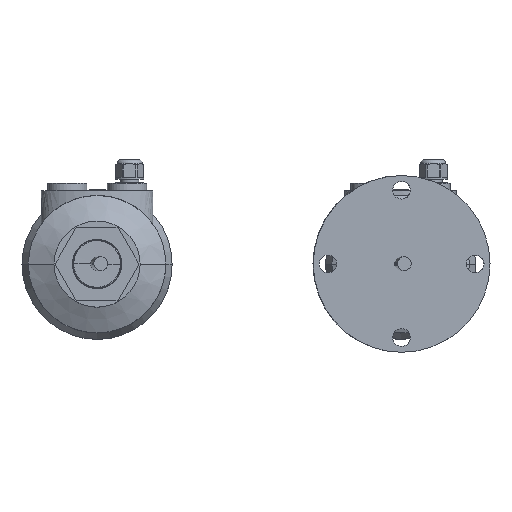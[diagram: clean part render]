
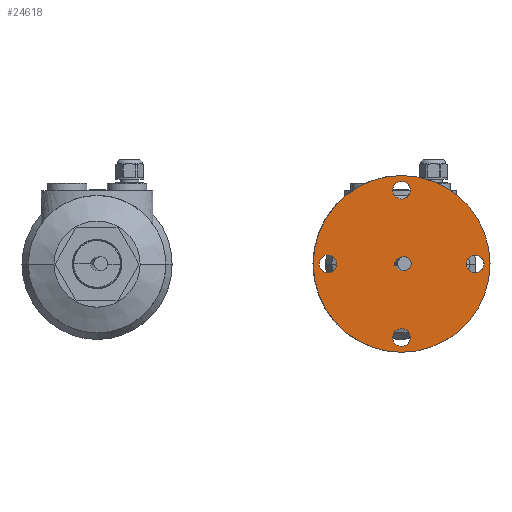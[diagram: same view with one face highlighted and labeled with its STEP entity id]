
A CAD part, top view. The second image highlights one B-rep face of the part: STEP entity #24618.
In plain terms, the highlighted planar face has unit normal (0.013, 0, 1) as drawn and (0, 0, 1) by its records, which use the part's own axes.
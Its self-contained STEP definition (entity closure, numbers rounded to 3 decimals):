
#24399=CARTESIAN_POINT('',(0.,0.,16.));
#24400=DIRECTION('',(0.,0.,1.));
#24401=DIRECTION('',(1.,0.,0.));
#24402=AXIS2_PLACEMENT_3D('',#24399,#24400,#24401);
#24404=CARTESIAN_POINT('',(0.,0.,16.));
#24405=DIRECTION('',(0.,0.,1.));
#24406=DIRECTION('',(-1.,0.,0.));
#24407=AXIS2_PLACEMENT_3D('',#24404,#24405,#24406);
#24409=CARTESIAN_POINT('',(0.,50.,16.));
#24410=DIRECTION('',(0.,0.,1.));
#24411=DIRECTION('',(1.,0.,0.));
#24412=AXIS2_PLACEMENT_3D('',#24409,#24410,#24411);
#24414=CARTESIAN_POINT('',(0.,50.,16.));
#24415=DIRECTION('',(0.,0.,1.));
#24416=DIRECTION('',(-1.,0.,0.));
#24417=AXIS2_PLACEMENT_3D('',#24414,#24415,#24416);
#24419=CARTESIAN_POINT('',(-50.,0.,16.));
#24420=DIRECTION('',(0.,0.,1.));
#24421=DIRECTION('',(0.,1.,0.));
#24422=AXIS2_PLACEMENT_3D('',#24419,#24420,#24421);
#24424=CARTESIAN_POINT('',(-50.,0.,16.));
#24425=DIRECTION('',(0.,0.,1.));
#24426=DIRECTION('',(0.,-1.,0.));
#24427=AXIS2_PLACEMENT_3D('',#24424,#24425,#24426);
#24429=CARTESIAN_POINT('',(0.,-50.,16.));
#24430=DIRECTION('',(0.,0.,1.));
#24431=DIRECTION('',(-1.,0.,0.));
#24432=AXIS2_PLACEMENT_3D('',#24429,#24430,#24431);
#24434=CARTESIAN_POINT('',(0.,-50.,16.));
#24435=DIRECTION('',(0.,0.,1.));
#24436=DIRECTION('',(1.,0.,0.));
#24437=AXIS2_PLACEMENT_3D('',#24434,#24435,#24436);
#24439=CARTESIAN_POINT('',(50.,0.,16.));
#24440=DIRECTION('',(0.,0.,1.));
#24441=DIRECTION('',(0.,-1.,0.));
#24442=AXIS2_PLACEMENT_3D('',#24439,#24440,#24441);
#24444=CARTESIAN_POINT('',(50.,0.,16.));
#24445=DIRECTION('',(0.,0.,1.));
#24446=DIRECTION('',(0.,1.,0.));
#24447=AXIS2_PLACEMENT_3D('',#24444,#24445,#24446);
#24485=CARTESIAN_POINT('',(60.,0.,16.));
#24486=CARTESIAN_POINT('',(-60.,0.,16.));
#24487=VERTEX_POINT('',#24485);
#24488=VERTEX_POINT('',#24486);
#24493=CARTESIAN_POINT('',(6.,50.,16.));
#24494=CARTESIAN_POINT('',(-6.,50.,16.));
#24495=VERTEX_POINT('',#24493);
#24496=VERTEX_POINT('',#24494);
#24501=CARTESIAN_POINT('',(-50.,6.,16.));
#24502=CARTESIAN_POINT('',(-50.,-6.,16.));
#24503=VERTEX_POINT('',#24501);
#24504=VERTEX_POINT('',#24502);
#24509=CARTESIAN_POINT('',(-6.,-50.,16.));
#24510=CARTESIAN_POINT('',(6.,-50.,16.));
#24511=VERTEX_POINT('',#24509);
#24512=VERTEX_POINT('',#24510);
#24517=CARTESIAN_POINT('',(50.,-6.,16.));
#24518=CARTESIAN_POINT('',(50.,6.,16.));
#24519=VERTEX_POINT('',#24517);
#24520=VERTEX_POINT('',#24518);
#24585=CARTESIAN_POINT('',(0.,0.,16.));
#24586=DIRECTION('',(0.,0.,1.));
#24587=DIRECTION('',(1.,0.,0.));
#24588=AXIS2_PLACEMENT_3D('',#24585,#24586,#24587);
#24589=PLANE('',#24588);
#24590=ORIENTED_EDGE('',*,*,#24565,.F.);
#24591=ORIENTED_EDGE('',*,*,#24579,.F.);
#24592=EDGE_LOOP('',(#24590,#24591));
#24593=FACE_OUTER_BOUND('',#24592,.F.);
#24595=ORIENTED_EDGE('',*,*,#24594,.T.);
#24597=ORIENTED_EDGE('',*,*,#24596,.T.);
#24598=EDGE_LOOP('',(#24595,#24597));
#24599=FACE_BOUND('',#24598,.F.);
#24601=ORIENTED_EDGE('',*,*,#24600,.T.);
#24603=ORIENTED_EDGE('',*,*,#24602,.T.);
#24604=EDGE_LOOP('',(#24601,#24603));
#24605=FACE_BOUND('',#24604,.F.);
#24607=ORIENTED_EDGE('',*,*,#24606,.T.);
#24609=ORIENTED_EDGE('',*,*,#24608,.T.);
#24610=EDGE_LOOP('',(#24607,#24609));
#24611=FACE_BOUND('',#24610,.F.);
#24613=ORIENTED_EDGE('',*,*,#24612,.T.);
#24615=ORIENTED_EDGE('',*,*,#24614,.T.);
#24616=EDGE_LOOP('',(#24613,#24615));
#24617=FACE_BOUND('',#24616,.F.);
#24618=ADVANCED_FACE('',(#24593,#24599,#24605,#24611,#24617),#24589,.T.);
#24403=CIRCLE('',#24402,60.);
#24408=CIRCLE('',#24407,60.);
#24413=CIRCLE('',#24412,6.);
#24418=CIRCLE('',#24417,6.);
#24423=CIRCLE('',#24422,6.);
#24428=CIRCLE('',#24427,6.);
#24433=CIRCLE('',#24432,6.);
#24438=CIRCLE('',#24437,6.);
#24443=CIRCLE('',#24442,6.);
#24448=CIRCLE('',#24447,6.);
#24565=EDGE_CURVE('',#24487,#24488,#24403,.T.);
#24579=EDGE_CURVE('',#24488,#24487,#24408,.T.);
#24594=EDGE_CURVE('',#24495,#24496,#24413,.T.);
#24596=EDGE_CURVE('',#24496,#24495,#24418,.T.);
#24600=EDGE_CURVE('',#24503,#24504,#24423,.T.);
#24602=EDGE_CURVE('',#24504,#24503,#24428,.T.);
#24606=EDGE_CURVE('',#24511,#24512,#24433,.T.);
#24608=EDGE_CURVE('',#24512,#24511,#24438,.T.);
#24612=EDGE_CURVE('',#24519,#24520,#24443,.T.);
#24614=EDGE_CURVE('',#24520,#24519,#24448,.T.);
